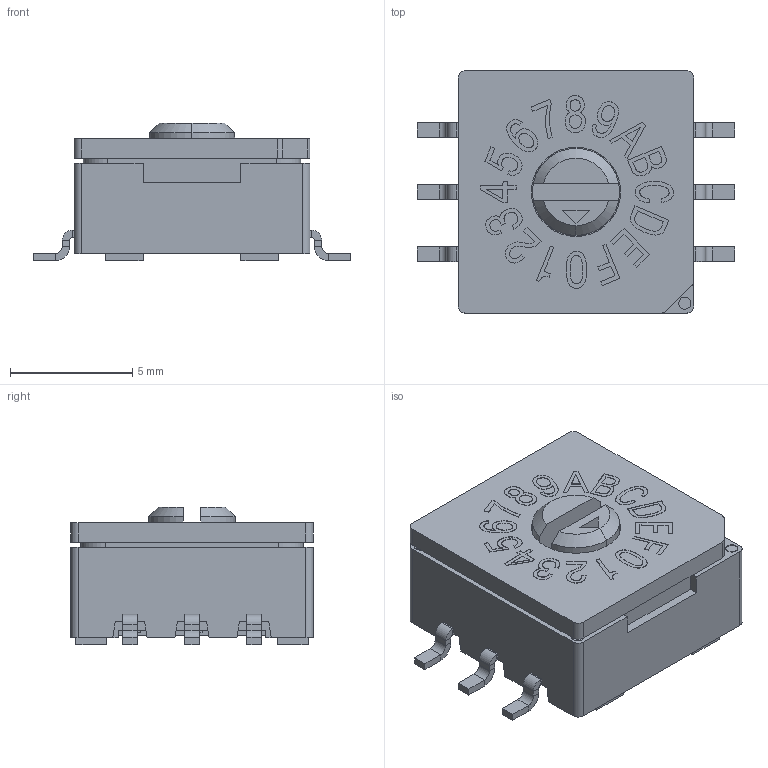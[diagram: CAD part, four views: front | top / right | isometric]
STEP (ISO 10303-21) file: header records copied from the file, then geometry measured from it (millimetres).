
FILE_DESCRIPTION (( 'STEP AP203' ), '1' );
FILE_NAME ('RSF-AFRM.STEP', '2015-01-27T13:30:10', ( 'Austin' ), ( 'Hewlett-Packard' ), 'SwSTEP 2.0', 'SolidWorks 2008', '' );
FILE_SCHEMA (( 'CONFIG_CONTROL_DESIGN' ));
Length unit declared in the file: millimetre
Products named in the file (10): 16P_預設; COVER_預設; ROTOR_16P-A; RSF-AFRM; BASE_SMD; BASE_預設; TERMINAL_SMD; COVER_16P; CODE-16_預設; ROTOR_A
Assembly tree (9 placements, depth 3):
  RSF-AFRM
    ROTOR_16P-A
      ROTOR_A
      CODE-16_預設
    COVER_16P
      16P_預設
      COVER_預設
    BASE_SMD
      TERMINAL_SMD
      BASE_預設
Bounding box: 13 x 9.91 x 5.64 mm (x, y, z)
Volume: 345.5 mm3; surface area: 1237.3 mm2
Topology: 21 solids, 21 shells, 1102 faces, 2859 edges, 1847 vertices
Faces by surface type: plane 704, cylinder 215, bspline 172, cone 7, torus 4
Entity records: 44114 total; most frequent: CARTESIAN_POINT 17294, ORIENTED_EDGE 5718, DIRECTION 4720, EDGE_CURVE 2859, VECTOR 1894, LINE 1894, VERTEX_POINT 1847, AXIS2_PLACEMENT_3D 1413
